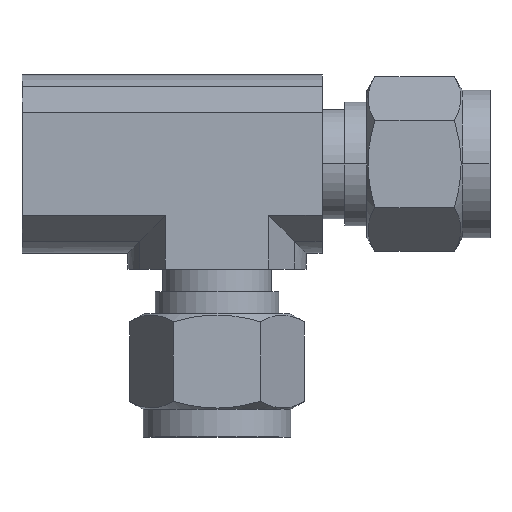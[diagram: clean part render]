
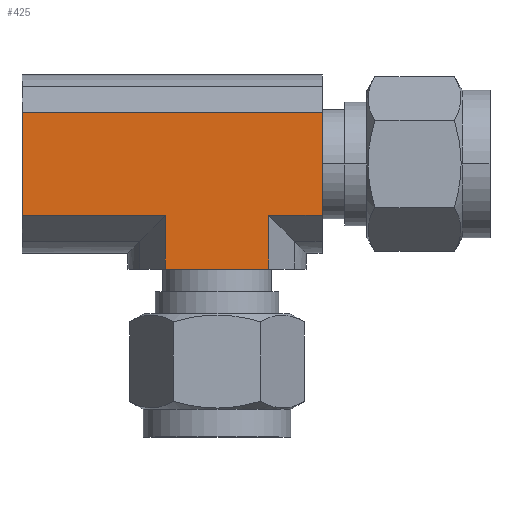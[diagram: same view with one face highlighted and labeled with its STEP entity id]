
A CAD part, top view. The second image highlights one B-rep face of the part: STEP entity #425.
In plain terms, the highlighted planar face has unit normal (0, 0, 1).
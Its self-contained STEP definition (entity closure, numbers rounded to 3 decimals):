
#141 = EDGE_CURVE ( 'NONE', #997, #416, #799, .T. ) ;
#146 = VERTEX_POINT ( 'NONE', #807 ) ;
#149 = EDGE_CURVE ( 'NONE', #146, #150, #764, .T. ) ;
#150 = VERTEX_POINT ( 'NONE', #760 ) ;
#151 = ORIENTED_EDGE ( 'NONE', *, *, #996, .F. ) ;
#152 = ORIENTED_EDGE ( 'NONE', *, *, #423, .T. ) ;
#153 = ORIENTED_EDGE ( 'NONE', *, *, #515, .F. ) ;
#154 = ORIENTED_EDGE ( 'NONE', *, *, #155, .T. ) ;
#155 = EDGE_CURVE ( 'NONE', #513, #416, #759, .T. ) ;
#156 = ORIENTED_EDGE ( 'NONE', *, *, #141, .F. ) ;
#157 = ORIENTED_EDGE ( 'NONE', *, *, #158, .F. ) ;
#158 = EDGE_CURVE ( 'NONE', #150, #413, #755, .T. ) ;
#413 = VERTEX_POINT ( 'NONE', #1637 ) ;
#416 = VERTEX_POINT ( 'NONE', #1632 ) ;
#423 = EDGE_CURVE ( 'NONE', #994, #413, #1620, .T. ) ;
#425 = ADVANCED_FACE ( 'NONE', ( #1616 ), #1614, .F. ) ;
#426 = EDGE_LOOP ( 'NONE', ( #427, #428, #153, #154, #156, #151, #152, #157 ) ) ;
#427 = ORIENTED_EDGE ( 'NONE', *, *, #149, .F. ) ;
#428 = ORIENTED_EDGE ( 'NONE', *, *, #429, .F. ) ;
#429 = EDGE_CURVE ( 'NONE', #516, #146, #1615, .T. ) ;
#513 = VERTEX_POINT ( 'NONE', #1877 ) ;
#515 = EDGE_CURVE ( 'NONE', #513, #516, #1876, .T. ) ;
#516 = VERTEX_POINT ( 'NONE', #1872 ) ;
#752 = DIRECTION ( 'NONE',  ( 0., 1., 0. ) ) ;
#753 = VECTOR ( 'NONE', #752, 1000. ) ;
#754 = CARTESIAN_POINT ( 'NONE',  ( -22.5, -5.947, 10.3 ) ) ;
#755 = LINE ( 'NONE', #754, #753 ) ;
#756 = DIRECTION ( 'NONE',  ( 0., 1., 0. ) ) ;
#757 = VECTOR ( 'NONE', #756, 1000. ) ;
#758 = CARTESIAN_POINT ( 'NONE',  ( 5.947, -12.14, 10.3 ) ) ;
#759 = LINE ( 'NONE', #758, #757 ) ;
#760 = CARTESIAN_POINT ( 'NONE',  ( -22.5, -5.947, 10.3 ) ) ;
#761 = DIRECTION ( 'NONE',  ( -1., 0., 0. ) ) ;
#762 = VECTOR ( 'NONE', #761, 1000. ) ;
#763 = CARTESIAN_POINT ( 'NONE',  ( 12.14, -5.947, 10.3 ) ) ;
#764 = LINE ( 'NONE', #763, #762 ) ;
#796 = DIRECTION ( 'NONE',  ( -1., 0., 0. ) ) ;
#797 = VECTOR ( 'NONE', #796, 1000. ) ;
#798 = CARTESIAN_POINT ( 'NONE',  ( 12.14, -5.947, 10.3 ) ) ;
#799 = LINE ( 'NONE', #798, #797 ) ;
#807 = CARTESIAN_POINT ( 'NONE',  ( -5.947, -5.947, 10.3 ) ) ;
#994 = VERTEX_POINT ( 'NONE', #2162 ) ;
#996 = EDGE_CURVE ( 'NONE', #994, #997, #2161, .T. ) ;
#997 = VERTEX_POINT ( 'NONE', #2157 ) ;
#1599 = DIRECTION ( 'NONE',  ( 0., 1., 0. ) ) ;
#1600 = VECTOR ( 'NONE', #1599, 1000. ) ;
#1609 = CARTESIAN_POINT ( 'NONE',  ( -5.947, -12.14, 10.3 ) ) ;
#1610 = DIRECTION ( 'NONE',  ( -1., 0., 0. ) ) ;
#1611 = DIRECTION ( 'NONE',  ( 0., 0., -1. ) ) ;
#1612 = CARTESIAN_POINT ( 'NONE',  ( 12.14, 5.947, 10.3 ) ) ;
#1613 = AXIS2_PLACEMENT_3D ( 'NONE', #1612, #1611, #1610 ) ;
#1614 = PLANE ( 'NONE',  #1613 ) ;
#1615 = LINE ( 'NONE', #1609, #1600 ) ;
#1616 = FACE_OUTER_BOUND ( 'NONE', #426, .T. ) ;
#1617 = DIRECTION ( 'NONE',  ( -1., 0., 0. ) ) ;
#1618 = VECTOR ( 'NONE', #1617, 1000. ) ;
#1619 = CARTESIAN_POINT ( 'NONE',  ( 12.14, 5.947, 10.3 ) ) ;
#1620 = LINE ( 'NONE', #1619, #1618 ) ;
#1632 = CARTESIAN_POINT ( 'NONE',  ( 5.947, -5.947, 10.3 ) ) ;
#1637 = CARTESIAN_POINT ( 'NONE',  ( -22.5, 5.947, 10.3 ) ) ;
#1872 = CARTESIAN_POINT ( 'NONE',  ( -5.947, -12.14, 10.3 ) ) ;
#1873 = DIRECTION ( 'NONE',  ( -1., 0., 0. ) ) ;
#1874 = VECTOR ( 'NONE', #1873, 1000. ) ;
#1875 = CARTESIAN_POINT ( 'NONE',  ( 5.947, -12.14, 10.3 ) ) ;
#1876 = LINE ( 'NONE', #1875, #1874 ) ;
#1877 = CARTESIAN_POINT ( 'NONE',  ( 5.947, -12.14, 10.3 ) ) ;
#2157 = CARTESIAN_POINT ( 'NONE',  ( 12.14, -5.947, 10.3 ) ) ;
#2158 = DIRECTION ( 'NONE',  ( 0., -1., 0. ) ) ;
#2159 = VECTOR ( 'NONE', #2158, 1000. ) ;
#2160 = CARTESIAN_POINT ( 'NONE',  ( 12.14, 5.947, 10.3 ) ) ;
#2161 = LINE ( 'NONE', #2160, #2159 ) ;
#2162 = CARTESIAN_POINT ( 'NONE',  ( 12.14, 5.947, 10.3 ) ) ;
